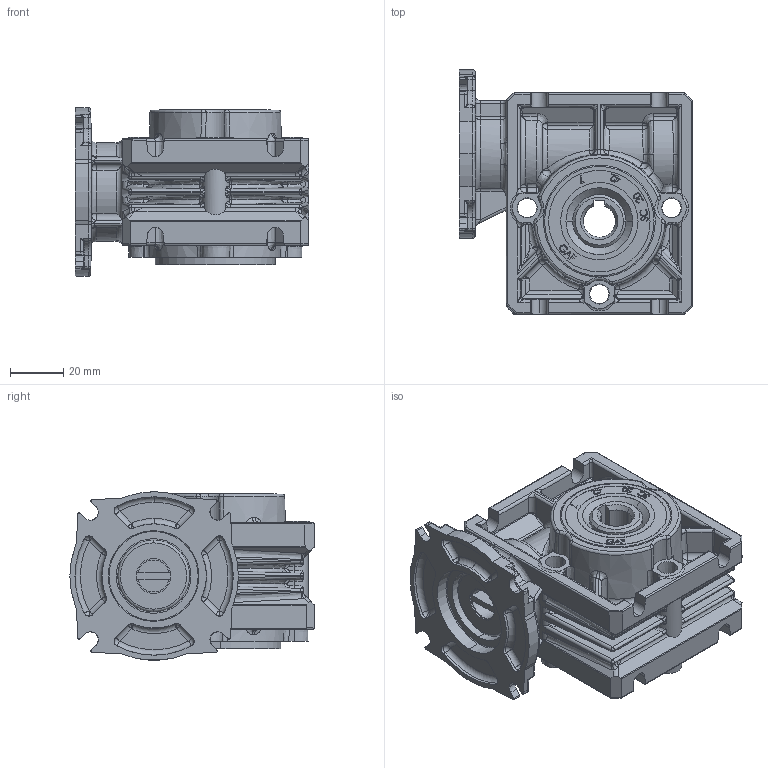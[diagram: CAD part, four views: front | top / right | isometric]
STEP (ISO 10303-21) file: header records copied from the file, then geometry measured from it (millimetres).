
FILE_DESCRIPTION (( 'STEP AP214' ), '1' );
FILE_NAME ('GB28.STEP', '2022-10-18T10:54:25', ( '' ), ( '' ), 'SwSTEP 2.0', 'SolidWorks 2020', '' );
FILE_SCHEMA (( 'AUTOMOTIVE_DESIGN' ));
Length unit declared in the file: millimetre
Products named in the file (1): GB28
Bounding box: 87.5 x 91.6 x 63.2 mm (x, y, z)
Volume: 146544.9 mm3; surface area: 79393 mm2
Topology: 7 solids, 7 shells, 2428 faces, 5983 edges, 3541 vertices
Faces by surface type: plane 1029, bspline 589, cylinder 540, sphere 104, torus 84, cone 82
Entity records: 114081 total; most frequent: CARTESIAN_POINT 36130, ORIENTED_EDGE 11754, DIRECTION 9435, EDGE_CURVE 5877, VERTEX_POINT 3525, AXIS2_PLACEMENT_3D 3397, LINE 2641, VECTOR 2641
